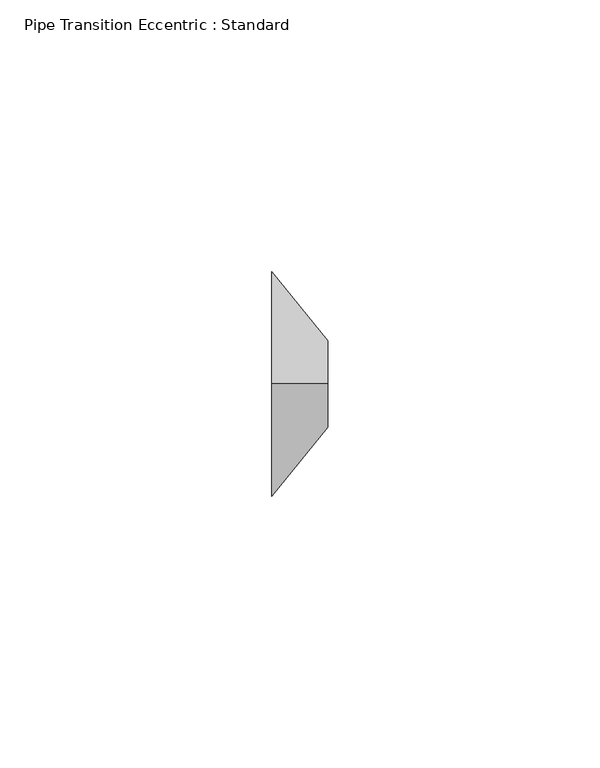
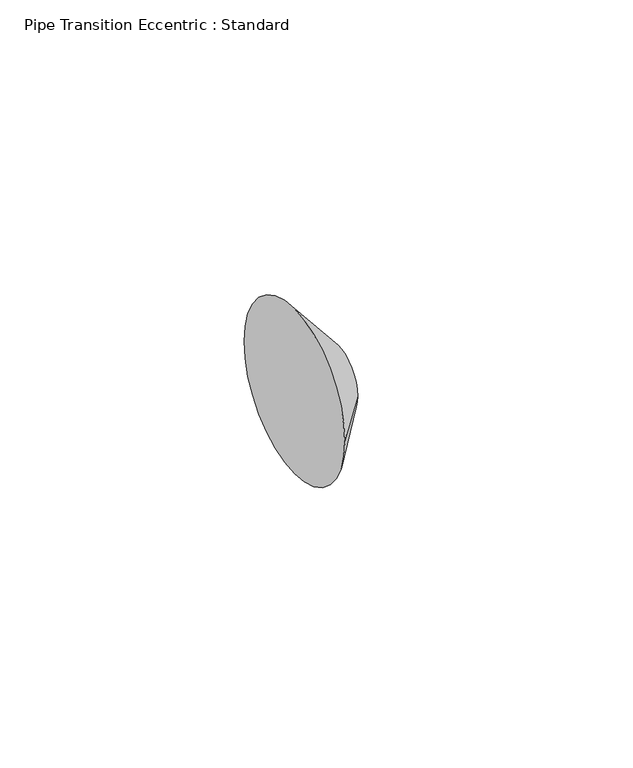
"""IFC4 building model written with IfcOpenShell, lengths in millimetres: pipe fitting geometry, Pipe Transition Eccentric : Standard."""

import ifcopenshell
import ifcopenshell.guid

model = None  # the IFC model being written
_history = None  # IfcOwnerHistory: only IFC2X3 demands one
_inside = {}  # id of a spatial element -> (the spatial element, [elements in it])
_under = {}  # id of a project, library or spatial element -> (it, [spatial elements below it])
_declared = {}  # id of a project -> (the project, [libraries it declares])
_typed = {}  # id of a type object -> (the type object, [elements of that type])
_made_of = {}  # id of a material, layer set ... -> (it, [elements and type objects made of it])


def new_model(schema):
    """Start an empty IFC model of exactly this schema.

    Asked for "IFC4X3", IfcOpenShell would pick the latest addendum, in which some entities
    have other attributes; the version numbers below select the first issue.
    IFC2X3 requires an IfcOwnerHistory on every rooted entity: one is made here for all.
    """
    global model, _history
    if schema == "IFC4X3":
        model = ifcopenshell.file(schema_version=(4, 3, 0, 0))
    else:
        model = ifcopenshell.file(schema=schema)
    _inside.clear()
    _under.clear()
    _declared.clear()
    _typed.clear()
    _made_of.clear()
    _history = None
    if model.schema == "IFC2X3":
        org = make("IfcOrganization", Name="unknown")
        user = make(
            "IfcPersonAndOrganization",
            ThePerson=make("IfcPerson", FamilyName="unknown"),
            TheOrganization=org,
        )
        app = make(
            "IfcApplication",
            ApplicationDeveloper=org,
            Version="unknown",
            ApplicationFullName="unknown",
            ApplicationIdentifier="unknown",
        )
        _history = make(
            "IfcOwnerHistory",
            OwningUser=user,
            OwningApplication=app,
            ChangeAction="ADDED",
            CreationDate=0,
        )
    return model


def make(cls, **values):
    """One entity of the class cls with the attributes given. An attribute that is None is left unset."""
    return model.create_entity(
        cls, **{name: value for name, value in values.items() if value is not None}
    )


def rooted(cls, **values):
    """An entity with a GlobalId (a new one), such as an element, a storey or a relation."""
    return make(cls, GlobalId=ifcopenshell.guid.new(), OwnerHistory=_history, **values)


def si_unit(unit_type, name, prefix=None):
    """IfcSIUnit, for example si_unit("LENGTHUNIT", "METRE", prefix="MILLI")."""
    return make("IfcSIUnit", UnitType=unit_type, Prefix=prefix, Name=name)


def assignment(units):
    """IfcUnitAssignment: the units of a project."""
    return None if units is None else make("IfcUnitAssignment", Units=units)


def point(xyz):
    """IfcCartesianPoint."""
    return None if xyz is None else make("IfcCartesianPoint", Coordinates=xyz)


def direction(xyz):
    """IfcDirection."""
    return None if xyz is None else make("IfcDirection", DirectionRatios=xyz)


def frame(location, z_axis=None, x_axis=None):
    """IfcAxis2Placement3D, a coordinate frame: its origin and axes. An axis left out is left unset."""
    return make(
        "IfcAxis2Placement3D",
        Location=point(location),
        Axis=direction(z_axis),
        RefDirection=direction(x_axis),
    )


def origin():
    """The frame at (0, 0, 0) with its axes left unset."""
    return frame((0.0, 0.0, 0.0))


def place(relative_to, where):
    """IfcLocalPlacement: puts the frame where relative to a parent placement (None: the world)."""
    return make(
        "IfcLocalPlacement", PlacementRelTo=relative_to, RelativePlacement=where
    )


def context(
    kind, dimensions, precision=None, world=None, true_north=None, identifier=None
):
    """IfcGeometricRepresentationContext, for example the 3D "Model" context."""
    return make(
        "IfcGeometricRepresentationContext",
        ContextIdentifier=identifier,
        ContextType=kind,
        CoordinateSpaceDimension=dimensions,
        Precision=precision,
        WorldCoordinateSystem=world,
        TrueNorth=true_north,
    )


def project(units=None, contexts=None):
    """IfcProject with its units and contexts."""
    return rooted(
        "IfcProject",
        Name="project",
        RepresentationContexts=contexts,
        UnitsInContext=assignment(units),
    )


def spatial(cls, under=None, at=None, **own):
    """A site, building, storey or space (cls), placed at a placement, below another one or the project."""
    s = rooted(cls, ObjectPlacement=at, **own)
    if under is not None:
        _under.setdefault(under.id(), (under, []))[1].append(s)
    return s


def polyline(points):
    """IfcPolyline through the points."""
    return make("IfcPolyline", Points=[point(p) for p in points])


def circle_curve(where, radius):
    """IfcCircle in the frame where."""
    return make("IfcCircle", Position=where, Radius=radius)


def shape(context_of_items, identifier, shape_type, items):
    """IfcShapeRepresentation: the items that make up one representation, for example the "Body"."""
    return make(
        "IfcShapeRepresentation",
        ContextOfItems=context_of_items,
        RepresentationIdentifier=identifier,
        RepresentationType=shape_type,
        Items=items,
    )


def source(mapping_origin, context_of_items, identifier, shape_type, items):
    """IfcRepresentationMap: a shape defined once, which mapped items show again and again."""
    return make(
        "IfcRepresentationMap",
        MappingOrigin=mapping_origin,
        MappedRepresentation=shape(context_of_items, identifier, shape_type, items),
    )


def transform(
    local_origin,
    x_axis=None,
    y_axis=None,
    z_axis=None,
    scale=None,
    scale2=None,
    scale3=None,
    uniform=True,
):
    """IfcCartesianTransformationOperator3D, or its non-uniform kind. x_axis, y_axis, z_axis: its Axis1, 2, 3."""
    if uniform:
        return make(
            "IfcCartesianTransformationOperator3D",
            Axis1=direction(x_axis),
            Axis2=direction(y_axis),
            LocalOrigin=point(local_origin),
            Scale=scale,
            Axis3=direction(z_axis),
        )
    return make(
        "IfcCartesianTransformationOperator3DnonUniform",
        Axis1=direction(x_axis),
        Axis2=direction(y_axis),
        LocalOrigin=point(local_origin),
        Scale=scale,
        Axis3=direction(z_axis),
        Scale2=scale2,
        Scale3=scale3,
    )


def mapped(mapping_source, mapping_target):
    """IfcMappedItem: shows the shape of a source again, moved by a transform."""
    return make(
        "IfcMappedItem", MappingSource=mapping_source, MappingTarget=mapping_target
    )


def made_of(thing, what):
    """Note that an element or type object is made of a material, layer set ...; save() writes the relation."""
    if what is not None:
        _made_of.setdefault(what.id(), (what, []))[1].append(thing)
    return thing


def element(
    cls,
    number,
    at=None,
    inside=None,
    cuts=None,
    type_object=None,
    material=None,
    context=None,
    identifier="Body",
    shape_type=None,
    held_by="IfcProductDefinitionShape",
    body=None,
    shapes=None,
    **own,
):
    """One element of the class cls, such as IfcWall. Its Tag is "e" and its number.

    at: its placement. inside: the storey or other place that contains it. cuts: it is an
    opening in that element (IfcRelVoidsElement). A single representation is given by context,
    identifier, shape_type and body (its items); several are given by shapes. held_by: the class
    of the entity that holds the representations. save() writes the other relations.
    """
    e = rooted(cls, Tag="e%d" % number, ObjectPlacement=at, **own)
    if body is not None:
        shapes = [shape(context, identifier, shape_type, body)]
    if shapes is not None:
        e.Representation = make(held_by, Representations=shapes)
    if inside is not None:
        _inside.setdefault(inside.id(), (inside, []))[1].append(e)
    if cuts is not None:
        rooted(
            "IfcRelVoidsElement", RelatingBuildingElement=cuts, RelatedOpeningElement=e
        )
    if type_object is not None:
        _typed.setdefault(type_object.id(), (type_object, []))[1].append(e)
    return made_of(e, material)


def aggregate(whole, parts):
    """IfcRelAggregates: a whole, such as a stair, and the parts it consists of."""
    return rooted("IfcRelAggregates", RelatingObject=whole, RelatedObjects=parts)


def save(model, path):
    """Write the relations noted so far, then the file.

    IfcRelAggregates (storeys below a building ...), IfcRelContainedInSpatialStructure (elements
    in a storey), IfcRelDefinesByType, IfcRelAssociatesMaterial and IfcRelDeclares: one each for
    every whole, place, type object, material and project.
    """
    for whole, parts in _under.values():
        aggregate(whole, parts)
    for where, things in _inside.values():
        rooted(
            "IfcRelContainedInSpatialStructure",
            RelatedElements=things,
            RelatingStructure=where,
        )
    for kind, things in _typed.values():
        rooted("IfcRelDefinesByType", RelatedObjects=things, RelatingType=kind)
    for what, things in _made_of.values():
        rooted("IfcRelAssociatesMaterial", RelatedObjects=things, RelatingMaterial=what)
    for by, libraries in _declared.values():
        rooted("IfcRelDeclares", RelatingContext=by, RelatedDefinitions=libraries)
    model.write(path)


def plane_surface(at):
    """IfcPlane: the flat surface through the origin of the frame at, square to its z axis."""
    return make("IfcPlane", Position=at)


def revolved_surface(curve, axis_point, axis_direction):
    """IfcSurfaceOfRevolution: the curve turned about the line through axis_point along axis_direction."""
    return make(
        "IfcSurfaceOfRevolution",
        SweptCurve=make("IfcArbitraryOpenProfileDef", ProfileType="CURVE", Curve=curve),
        AxisPosition=make("IfcAxis1Placement", Location=point(axis_point), Axis=direction(axis_direction)),
    )


def advanced_brep(points, edges, surfaces, faces):
    """IfcAdvancedBrep: a solid bounded by faces that lie on surfaces and meet in shared edges.

    An edge is (start, end): straight between two places in points (the first is 0);
    or (start, end, curve); or (start, end, curve, False) where it runs against its curve.
    A face is (place in surfaces, loops), or (place, loops, False) where it looks against
    its surface's normal. A loop lists edges by number (the first is 1), with a minus sign
    where the edge is run from its end to its start. The first loop is the outer one.
    """
    corners = [point(p) for p in points]
    vertices = [make("IfcVertexPoint", VertexGeometry=c) for c in corners]
    made = []
    for start, end, *more in edges:
        made.append(
            make(
                "IfcEdgeCurve",
                EdgeStart=vertices[start],
                EdgeEnd=vertices[end],
                EdgeGeometry=more[0] if more else make("IfcPolyline", Points=[corners[start], corners[end]]),
                SameSense=more[1] if len(more) > 1 else True,
            )
        )
    hull = []
    for where, loops, *sense in faces:
        bounds = []
        for j, loop in enumerate(loops):
            ring = [make("IfcOrientedEdge", EdgeElement=made[abs(k) - 1], Orientation=k > 0) for k in loop]
            bounds.append(
                make(
                    "IfcFaceOuterBound" if j == 0 else "IfcFaceBound",
                    Bound=make("IfcEdgeLoop", EdgeList=ring),
                    Orientation=True,
                )
            )
        hull.append(make("IfcAdvancedFace", Bounds=bounds, FaceSurface=surfaces[where], SameSense=sense[0] if sense else True))
    return make("IfcAdvancedBrep", Outer=make("IfcClosedShell", CfsFaces=hull))


def pipe_transition_eccentric_standard_4aeee749(model_context):
    return source(origin(), model_context, "Body", "AdvancedBrep", [
        advanced_brep(
        [(10.31875, 0.0, 7.9375), (10.31875, -7.9375, 0.0), (10.31875, 0.0, -7.9375), (10.31875, 7.9375, 0.0), (0.0, 0.0, 20.6375), (0.0, 20.6375, 0.0), (0.0, 0.0, -20.6375), (0.0, -20.6375, 0.0)],
        [
            (0, 1, circle_curve(frame((10.31875, 0.0, 0.0), z_axis=(1.0, 0.0, 0.0), x_axis=(0.0, 0.0, 1.0)), 7.9375)),
            (1, 2, circle_curve(frame((10.31875, 0.0, 0.0), z_axis=(1.0, 0.0, 0.0), x_axis=(0.0, -1.0, 0.0)), 7.9375)),
            (2, 3, circle_curve(frame((10.31875, 0.0, 0.0), z_axis=(1.0, 0.0, 0.0), x_axis=(0.0, 0.0, -1.0)), 7.9375)),
            (3, 0, circle_curve(frame((10.31875, 0.0, 0.0), z_axis=(1.0, 0.0, 0.0), x_axis=(0.0, 1.0, 0.0)), 7.9375)),
            (4, 5, circle_curve(frame((0.0, 0.0, 0.0), z_axis=(-1.0, 0.0, 0.0), x_axis=(0.0, 1.0, 0.0)), 20.6375)),
            (5, 6, circle_curve(frame((0.0, 0.0, 0.0), z_axis=(-1.0, 0.0, 0.0), x_axis=(0.0, 0.0, -1.0)), 20.6375)),
            (6, 7, circle_curve(frame((0.0, 0.0, 0.0), z_axis=(-1.0, 0.0, 0.0), x_axis=(0.0, -1.0, 0.0)), 20.6375)),
            (7, 4, circle_curve(frame((0.0, 0.0, 0.0), z_axis=(-1.0, 0.0, 0.0), x_axis=(0.0, 0.0, 1.0)), 20.6375)),
            (7, 1),
            (0, 4),
            (6, 2),
            (5, 3),
        ],
        [
            plane_surface(frame((10.31875, 0.0, 0.0), z_axis=(1.0, 0.0, 0.0), x_axis=(0.0, -1.0, 0.0))),
            plane_surface(frame((0.0, 0.0, 0.0), z_axis=(-1.0, 0.0, 0.0), x_axis=(0.0, -1.0, 0.0))),
            revolved_surface(polyline([(10.31875, 0.0, 7.937500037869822), (0.0, 0.0, 20.6375)]), (16.7679688, 0.0, 0.0), (-1.0, 0.0, 0.0)),
            revolved_surface(polyline([(10.31875, -7.937500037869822, 0.0), (0.0, -20.6375, 0.0)]), (16.7679688, 0.0, 0.0), (-1.0, 0.0, 0.0)),
            revolved_surface(polyline([(10.31875, 0.0, -7.937500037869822), (0.0, 0.0, -20.6375)]), (16.7679688, 0.0, 0.0), (-1.0, 0.0, 0.0)),
            revolved_surface(polyline([(10.31875, 7.937500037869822, 0.0), (0.0, 20.6375, 0.0)]), (16.7679688, 0.0, 0.0), (-1.0, 0.0, 0.0)),
        ],
        [
            (0, [[1, 2, 3, 4]]),
            (1, [[5, 6, 7, 8]]),
            (2, [[-8, 9, -1, 10]]),
            (3, [[-7, 11, -2, -9]]),
            (4, [[-6, 12, -3, -11]]),
            (5, [[-5, -10, -4, -12]]),
        ],
    ),
        advanced_brep(
        [(10.31875, 0.0, 7.9375), (10.31875, -7.9375, 0.0), (10.31875, 0.0, -7.9375), (10.31875, 7.9375, 0.0), (0.0, 0.0, 20.6375), (0.0, 20.6375, 0.0), (0.0, 0.0, -20.6375), (0.0, -20.6375, 0.0)],
        [
            (0, 1, circle_curve(frame((10.31875, 0.0, 0.0), z_axis=(1.0, 0.0, 0.0), x_axis=(0.0, 0.0, 1.0)), 7.9375)),
            (1, 2, circle_curve(frame((10.31875, 0.0, 0.0), z_axis=(1.0, 0.0, 0.0), x_axis=(0.0, -1.0, 0.0)), 7.9375)),
            (2, 3, circle_curve(frame((10.31875, 0.0, 0.0), z_axis=(1.0, 0.0, -1.2984464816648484e-12), x_axis=(-1.2984554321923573e-12, 0.0, -1.0)), 7.9375)),
            (3, 0, circle_curve(frame((10.31875, 0.0, 0.0), z_axis=(1.0, 0.0, 0.0), x_axis=(0.0, 1.0, 0.0)), 7.9375)),
            (4, 5, circle_curve(frame((0.0, 0.0, 0.0), z_axis=(-1.0, 0.0, 0.0), x_axis=(0.0, 1.0, 0.0)), 20.6375)),
            (5, 6, circle_curve(frame((0.0, 0.0, 0.0), z_axis=(-1.0, 0.0, 1.2984464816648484e-12), x_axis=(-1.2984554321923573e-12, 0.0, -1.0)), 20.6375)),
            (6, 7, circle_curve(frame((0.0, 0.0, 0.0), z_axis=(-1.0, 0.0, 0.0), x_axis=(0.0, -1.0, 0.0)), 20.6375)),
            (7, 4, circle_curve(frame((0.0, 0.0, 0.0), z_axis=(-1.0, 0.0, 0.0), x_axis=(0.0, 0.0, 1.0)), 20.6375)),
            (7, 1),
            (0, 4),
            (6, 2),
            (5, 3),
        ],
        [
            plane_surface(frame((10.31875, 0.0, 0.0), z_axis=(1.0, 0.0, 0.0), x_axis=(0.0, -1.0, 0.0))),
            plane_surface(frame((0.0, 0.0, 0.0), z_axis=(-1.0, 0.0, 0.0), x_axis=(0.0, -1.0, 0.0))),
            revolved_surface(polyline([(10.31875, 0.0, 7.937500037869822), (0.0, 0.0, 20.6375)]), (16.7679688, 0.0, 0.0), (-1.0, 0.0, 0.0)),
            revolved_surface(polyline([(10.31875, -7.937500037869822, 0.0), (0.0, -20.6375, 0.0)]), (16.7679688, 0.0, 0.0), (-1.0, 0.0, 0.0)),
            revolved_surface(polyline([(10.318749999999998, 0.0, -7.937499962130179), (-2.679811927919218e-11, 0.0, -20.637500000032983)]), (16.7679687, 0.0, 0.0), (-1.0, 0.0, 1.2984464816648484e-12)),
            revolved_surface(polyline([(10.31875, 7.937499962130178, 0.0), (0.0, 20.6375, 0.0)]), (16.7679687, 0.0, 0.0), (-1.0, 0.0, 0.0)),
        ],
        [
            (0, [[1, 2, 3, 4]]),
            (1, [[5, 6, 7, 8]]),
            (2, [[-8, 9, -1, 10]]),
            (3, [[-7, 11, -2, -9]]),
            (4, [[-6, 12, -3, -11]]),
            (5, [[-5, -10, -4, -12]]),
        ],
    ),
    ])


if __name__ == "__main__":
    model = new_model("IFC4")
    model_context = context("Model", 3, world=origin())
    ifc_project = project(units=[si_unit("LENGTHUNIT", "METRE", prefix="MILLI")], contexts=[model_context])
    site = spatial("IfcSite", under=ifc_project)
    building = spatial("IfcBuilding", under=site)
    placement = place(None, origin())
    pipe_transition_eccentric_standard_shape = pipe_transition_eccentric_standard_4aeee749(model_context)
    element("IfcPipeFitting", 1, ObjectType="Pipe Transition Eccentric : Standard", at=placement, inside=building, context=model_context, shape_type="MappedRepresentation", body=[
        mapped(pipe_transition_eccentric_standard_shape, transform((0.0, 0.0, 0.0), x_axis=(1.0, 0.0, 0.0), y_axis=(0.0, 1.0, 0.0), z_axis=(0.0, 0.0, 1.0))),
    ])
    save(model, "model.ifc")
